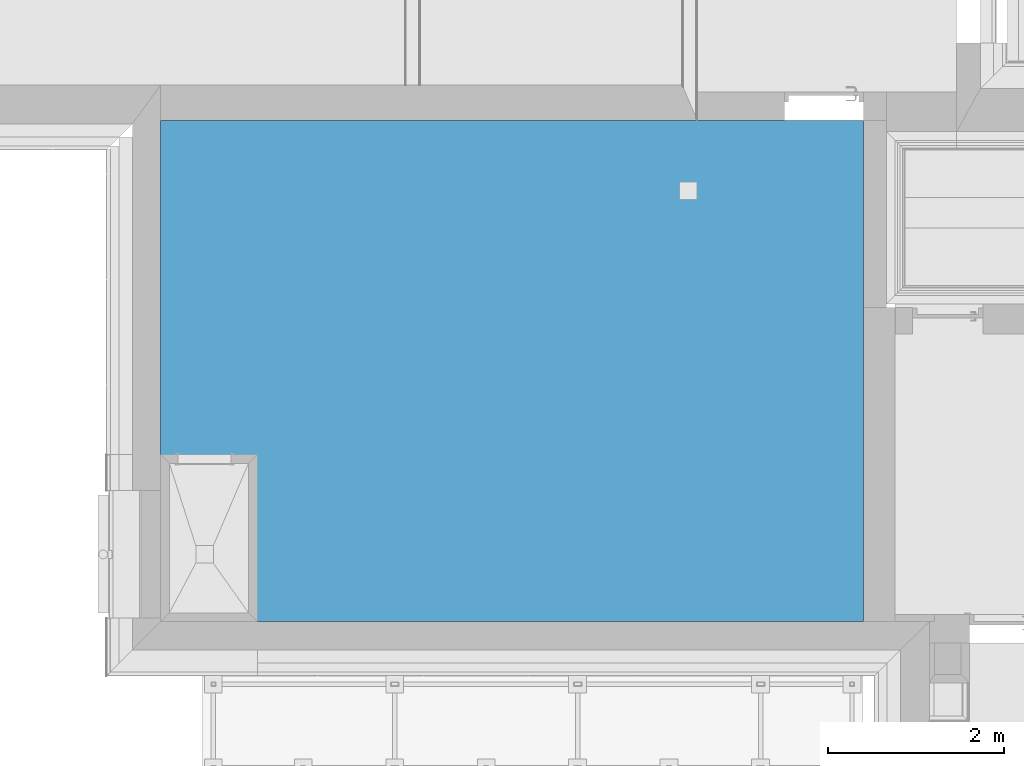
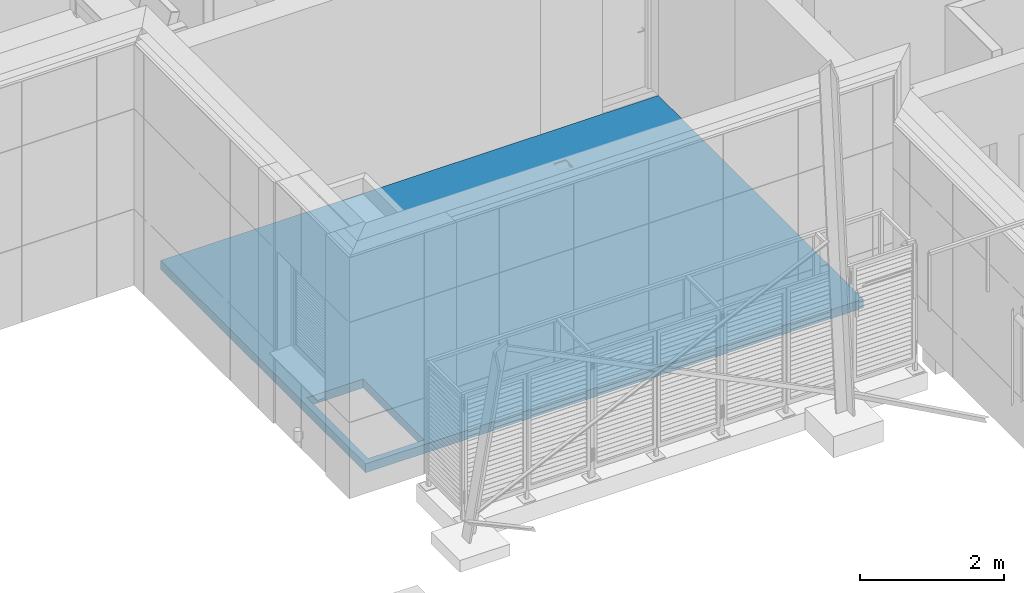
# One storey, part 116 of 418: 1 building element part, 1 opening, 1 element without a shape of its own.
"""IFC2X3 building model written with IfcOpenShell, lengths in millimetres."""

from ifc_helpers import new_model, entity, si_unit, converted_unit, derived_unit, money_unit, direction, frame, origin_with_axes, place, context, subcontext, project, spatial, polyline, outline, extrude, boolean, faceted_brep, material, type_object, element, aggregate, save


model = new_model("IFC2X3")

# Units and contexts
model_context = context("Model", 3, precision=0.01, world=origin_with_axes(), true_north=direction((0.0, 1.0)))
body_context = subcontext(model_context, "Body", "Model", "MODEL_VIEW")
ifc_project = project(units=[si_unit("LENGTHUNIT", "METRE", prefix="MILLI"), si_unit("AREAUNIT", "SQUARE_METRE"), si_unit("VOLUMEUNIT", "CUBIC_METRE"), converted_unit("PLANEANGLEUNIT", "DEGREE", entity("IfcPlaneAngleMeasure", 0.0174532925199), si_unit("PLANEANGLEUNIT", "RADIAN"), dimensions=[0, 0, 0, 0, 0, 0, 0]), si_unit("SOLIDANGLEUNIT", "STERADIAN"), money_unit("EUR"), converted_unit("TIMEUNIT", "Year", entity("IfcTimeMeasure", 31556926.0), si_unit("TIMEUNIT", "SECOND"), dimensions=[0, 0, 1, 0, 0, 0, 0]), si_unit("MASSUNIT", "GRAM", prefix="KILO"), si_unit("THERMODYNAMICTEMPERATUREUNIT", "DEGREE_CELSIUS"), si_unit("LUMINOUSINTENSITYUNIT", "LUMEN"), si_unit("ENERGYUNIT", "JOULE", prefix="MEGA"), derived_unit("THERMALCONDUCTANCEUNIT", [(si_unit("POWERUNIT", "WATT"), 1), (si_unit("LENGTHUNIT", "METRE"), -1), (si_unit("THERMODYNAMICTEMPERATUREUNIT", "KELVIN"), -1)]), derived_unit("SPECIFICHEATCAPACITYUNIT", [(si_unit("ENERGYUNIT", "JOULE"), 1), (si_unit("MASSUNIT", "GRAM", prefix="KILO"), -1), (si_unit("THERMODYNAMICTEMPERATUREUNIT", "KELVIN"), -1)]), derived_unit("MASSDENSITYUNIT", [(si_unit("MASSUNIT", "GRAM", prefix="KILO"), 1), (si_unit("VOLUMEUNIT", "CUBIC_METRE"), -1)])], contexts=[model_context])

# Site, building, storey
site_placement = place(None, origin_with_axes())
site = spatial("IfcSite", under=ifc_project, at=site_placement, Name="Paldiski mnt 245/1, Tallinn, Harjumaa", CompositionType="COMPLEX")
building_placement = place(site_placement, origin_with_axes())
building = spatial("IfcBuilding", under=site, at=building_placement, Name="RKAS Hoone üldnimetus (kasutust iseloomustav) -> IFC Project Manager -> SOLIBRI", CompositionType="ELEMENT")
storey_placement = place(building_placement, origin_with_axes())
storey = spatial("IfcBuildingStorey", under=building, at=storey_placement, Name="Esimene korrus", CompositionType="ELEMENT", Elevation=0.0)

# Slab, opening, building element part
slab_type = type_object("IfcSlabType", Name="AP-01 350", PredefinedType="NOTDEFINED")
slab_placement = place(storey_placement, frame((-56390.0, 130.000000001, 0.0), z_axis=(0.0, 0.0, 1.0), x_axis=(1.0, 0.0, 0.0)))
slab = element("IfcSlab", 1, at=slab_placement, inside=storey, type_object=slab_type, Name="AP-01", PredefinedType="NOTDEFINED")
opening_placement = place(slab_placement, frame((100.0, 1799.99992126, 0.0), z_axis=(0.0, 0.0, 1.0), x_axis=(0.0, -1.0, 0.0)))
element("IfcOpeningElement", 2, at=opening_placement, cuts=slab, Name="Slab Opening", context=body_context, shape_type="SweptSolid", body=[
    extrude(outline(polyline([(0.0, 0.0), (1699.99992126, 0.0), (1699.99992126, 900.000023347), (0.0, 900.000023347), (0.0, 0.0)])), frame((0.0, 0.0, -350.0), z_axis=(0.0, 0.0, 1.0), x_axis=(1.0, 0.0, 0.0)), (0.0, 0.0, 1.0), 350.0),
])
ifc_material = material(Name="Kiudbetoon")
building_element_part_placement = place(slab_placement, origin_with_axes())
building_element_part = element("IfcBuildingElementPart", 3, at=building_element_part_placement, material=ifc_material, Name="Kiudbetoon", context=body_context, shape_type="CSG", body=[
    boolean("DIFFERENCE", extrude(outline(polyline([(0.0, 0.0), (7990.0, -1.84741111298e-10), (7990.0, 5700.0), (1.42108547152e-10, 5700.0), (0.0, 0.0)])), frame((0.0, 0.0, -150.0), z_axis=(0.0, 0.0, 1.0), x_axis=(1.0, 0.0, 0.0)), (0.0, 0.0, 1.0), 150.0), faceted_brep([(5900.0, 4796.74087395, 0.0), (6100.0, 4796.74087395, 0.0), (6100.0, 4996.74087395, 0.0), (5900.0, 4996.74087395, 0.0), (5900.0, 4796.74087395, -15.0), (6100.0, 4796.74087395, -15.0), (6100.0, 4996.74087395, -15.0), (5900.0, 4996.74087395, -15.0), (5904.0, 4800.74087395, -15.0), (5924.5, 4800.74087395, -15.0), (5924.5, 4821.24087395, -15.0), (5924.5, 4825.24087395, -15.0), (5924.5, 4845.74087395, -15.0), (5924.5, 4849.74087395, -15.0), (5924.5, 4870.24087395, -15.0), (5924.5, 4874.24087395, -15.0), (5924.5, 4894.74087395, -15.0), (5924.5, 4898.74087395, -15.0), (5924.5, 4919.24087395, -15.0), (5924.5, 4923.24087395, -15.0), (5924.5, 4943.74087395, -15.0), (5924.5, 4947.74087395, -15.0), (5924.5, 4968.24087395, -15.0), (5924.5, 4972.24087395, -15.0), (5924.5, 4992.74087395, -15.0), (5928.5, 4992.74087395, -15.0), (5928.5, 4972.24087395, -15.0), (5928.5, 4968.24087395, -15.0), (5928.5, 4947.74087395, -15.0), (5928.5, 4943.74087395, -15.0), (5928.5, 4923.24087395, -15.0), (5928.5, 4919.24087395, -15.0), (5928.5, 4898.74087395, -15.0), (5928.5, 4894.74087395, -15.0), (5928.5, 4874.24087395, -15.0), (5928.5, 4870.24087395, -15.0), (5928.5, 4849.74087395, -15.0), (5928.5, 4845.74087395, -15.0), (5928.5, 4825.24087395, -15.0), (5928.5, 4821.24087395, -15.0), (5928.5, 4800.74087395, -15.0), (5949.0, 4800.74087395, -15.0), (5949.0, 4821.24087395, -15.0), (5949.0, 4825.24087395, -15.0), (5949.0, 4845.74087395, -15.0), (5949.0, 4849.74087395, -15.0), (5949.0, 4870.24087395, -15.0), (5949.0, 4874.24087395, -15.0), (5949.0, 4894.74087395, -15.0), (5949.0, 4898.74087395, -15.0), (5949.0, 4919.24087395, -15.0), (5949.0, 4923.24087395, -15.0), (5949.0, 4943.74087395, -15.0), (5949.0, 4947.74087395, -15.0), (5949.0, 4968.24087395, -15.0), (5949.0, 4972.24087395, -15.0), (5949.0, 4992.74087395, -15.0), (5953.0, 4992.74087395, -15.0), (5953.0, 4972.24087395, -15.0), (5953.0, 4968.24087395, -15.0), (5953.0, 4947.74087395, -15.0), (5953.0, 4943.74087395, -15.0), (5953.0, 4923.24087395, -15.0), (5953.0, 4919.24087395, -15.0), (5953.0, 4898.74087395, -15.0), (5953.0, 4894.74087395, -15.0), (5953.0, 4874.24087395, -15.0), (5953.0, 4870.24087395, -15.0), (5953.0, 4849.74087395, -15.0), (5953.0, 4845.74087395, -15.0), (5953.0, 4825.24087395, -15.0), (5953.0, 4821.24087395, -15.0), (5953.0, 4800.74087395, -15.0), (5973.5, 4800.74087395, -15.0), (5973.5, 4821.24087395, -15.0), (5973.5, 4825.24087395, -15.0), (5973.5, 4845.74087395, -15.0), (5973.5, 4849.74087395, -15.0), (5973.5, 4870.24087395, -15.0), (5973.5, 4874.24087395, -15.0), (5973.5, 4894.74087395, -15.0), (5973.5, 4898.74087395, -15.0), (5973.5, 4919.24087395, -15.0), (5973.5, 4923.24087395, -15.0), (5973.5, 4943.74087395, -15.0), (5973.5, 4947.74087395, -15.0), (5973.5, 4968.24087395, -15.0), (5973.5, 4972.24087395, -15.0), (5973.5, 4992.74087395, -15.0), (5977.5, 4992.74087395, -15.0), (5977.5, 4972.24087395, -15.0), (5977.5, 4968.24087395, -15.0), (5977.5, 4947.74087395, -15.0), (5977.5, 4943.74087395, -15.0), (5977.5, 4923.24087395, -15.0), (5977.5, 4919.24087395, -15.0), (5977.5, 4898.74087395, -15.0), (5977.5, 4894.74087395, -15.0), (5977.5, 4874.24087395, -15.0), (5977.5, 4870.24087395, -15.0), (5977.5, 4849.74087395, -15.0), (5977.5, 4845.74087395, -15.0), (5977.5, 4825.24087395, -15.0), (5977.5, 4821.24087395, -15.0), (5977.5, 4800.74087395, -15.0), (5998.0, 4800.74087395, -15.0), (5998.0, 4821.24087395, -15.0), (5998.0, 4825.24087395, -15.0), (5998.0, 4845.74087395, -15.0), (5998.0, 4849.74087395, -15.0), (5998.0, 4870.24087395, -15.0), (5998.0, 4874.24087395, -15.0), (5998.0, 4894.74087395, -15.0), (5998.0, 4898.74087395, -15.0), (5998.0, 4919.24087395, -15.0), (5998.0, 4923.24087395, -15.0), (5998.0, 4943.74087395, -15.0), (5998.0, 4947.74087395, -15.0), (5998.0, 4968.24087395, -15.0), (5998.0, 4972.24087395, -15.0), (5998.0, 4992.74087395, -15.0), (6002.0, 4992.74087395, -15.0), (6002.0, 4972.24087395, -15.0), (6002.0, 4968.24087395, -15.0), (6002.0, 4947.74087395, -15.0), (6002.0, 4943.74087395, -15.0), (6002.0, 4923.24087395, -15.0), (6002.0, 4919.24087395, -15.0), (6002.0, 4898.74087395, -15.0), (6002.0, 4894.74087395, -15.0), (6002.0, 4874.24087395, -15.0), (6002.0, 4870.24087395, -15.0), (6002.0, 4849.74087395, -15.0), (6002.0, 4845.74087395, -15.0), (6002.0, 4825.24087395, -15.0), (6002.0, 4821.24087395, -15.0), (6002.0, 4800.74087395, -15.0), (6022.5, 4800.74087395, -15.0), (6022.5, 4821.24087395, -15.0), (6022.5, 4825.24087395, -15.0), (6022.5, 4845.74087395, -15.0), (6022.5, 4849.74087395, -15.0), (6022.5, 4870.24087395, -15.0), (6022.5, 4874.24087395, -15.0), (6022.5, 4894.74087395, -15.0), (6022.5, 4898.74087395, -15.0), (6022.5, 4919.24087395, -15.0), (6022.5, 4923.24087395, -15.0), (6022.5, 4943.74087395, -15.0), (6022.5, 4947.74087395, -15.0), (6022.5, 4968.24087395, -15.0), (6022.5, 4972.24087395, -15.0), (6022.5, 4992.74087395, -15.0), (6026.5, 4992.74087395, -15.0), (6026.5, 4972.24087395, -15.0), (6026.5, 4968.24087395, -15.0), (6026.5, 4947.74087395, -15.0), (6026.5, 4943.74087395, -15.0), (6026.5, 4923.24087395, -15.0), (6026.5, 4919.24087395, -15.0), (6026.5, 4898.74087395, -15.0), (6026.5, 4894.74087395, -15.0), (6026.5, 4874.24087395, -15.0), (6026.5, 4870.24087395, -15.0), (6026.5, 4849.74087395, -15.0), (6026.5, 4845.74087395, -15.0), (6026.5, 4825.24087395, -15.0), (6026.5, 4821.24087395, -15.0), (6026.5, 4800.74087395, -15.0), (6047.0, 4800.74087395, -15.0), (6047.0, 4821.24087395, -15.0), (6047.0, 4825.24087395, -15.0), (6047.0, 4845.74087395, -15.0), (6047.0, 4849.74087395, -15.0), (6047.0, 4870.24087395, -15.0), (6047.0, 4874.24087395, -15.0), (6047.0, 4894.74087395, -15.0), (6047.0, 4898.74087395, -15.0), (6047.0, 4919.24087395, -15.0), (6047.0, 4923.24087395, -15.0), (6047.0, 4943.74087395, -15.0), (6047.0, 4947.74087395, -15.0), (6047.0, 4968.24087395, -15.0), (6047.0, 4972.24087395, -15.0), (6047.0, 4992.74087395, -15.0), (6051.0, 4992.74087395, -15.0), (6051.0, 4972.24087395, -15.0), (6051.0, 4968.24087395, -15.0), (6051.0, 4947.74087395, -15.0), (6051.0, 4943.74087395, -15.0), (6051.0, 4923.24087395, -15.0), (6051.0, 4919.24087395, -15.0), (6051.0, 4898.74087395, -15.0), (6051.0, 4894.74087395, -15.0), (6051.0, 4874.24087395, -15.0), (6051.0, 4870.24087395, -15.0), (6051.0, 4849.74087395, -15.0), (6051.0, 4845.74087395, -15.0), (6051.0, 4825.24087395, -15.0), (6051.0, 4821.24087395, -15.0), (6051.0, 4800.74087395, -15.0), (6071.5, 4800.74087395, -15.0), (6071.5, 4821.24087395, -15.0), (6071.5, 4825.24087395, -15.0), (6071.5, 4845.74087395, -15.0), (6071.5, 4849.74087395, -15.0), (6071.5, 4870.24087395, -15.0), (6071.5, 4874.24087395, -15.0), (6071.5, 4894.74087395, -15.0), (6071.5, 4898.74087395, -15.0), (6071.5, 4919.24087395, -15.0), (6071.5, 4923.24087395, -15.0), (6071.5, 4943.74087395, -15.0), (6071.5, 4947.74087395, -15.0), (6071.5, 4968.24087395, -15.0), (6071.5, 4972.24087395, -15.0), (6071.5, 4992.74087395, -15.0), (6075.5, 4992.74087395, -15.0), (6075.5, 4972.24087395, -15.0), (6075.5, 4968.24087395, -15.0), (6075.5, 4947.74087395, -15.0), (6075.5, 4943.74087395, -15.0), (6075.5, 4923.24087395, -15.0), (6075.5, 4919.24087395, -15.0), (6075.5, 4898.74087395, -15.0), (6075.5, 4894.74087395, -15.0), (6075.5, 4874.24087395, -15.0), (6075.5, 4870.24087395, -15.0), (6075.5, 4849.74087395, -15.0), (6075.5, 4845.74087395, -15.0), (6075.5, 4825.24087395, -15.0), (6075.5, 4821.24087395, -15.0), (6075.5, 4800.74087395, -15.0), (6096.0, 4800.74087395, -15.0), (6096.0, 4821.24087395, -15.0), (6096.0, 4825.24087395, -15.0), (6096.0, 4845.74087395, -15.0), (6096.0, 4849.74087395, -15.0), (6096.0, 4870.24087395, -15.0), (6096.0, 4874.24087395, -15.0), (6096.0, 4894.74087395, -15.0), (6096.0, 4898.74087395, -15.0), (6096.0, 4919.24087395, -15.0), (6096.0, 4923.24087395, -15.0), (6096.0, 4943.74087395, -15.0), (6096.0, 4947.74087395, -15.0), (6096.0, 4968.24087395, -15.0), (6096.0, 4972.24087395, -15.0), (6096.0, 4992.74087395, -15.0), (5904.0, 4992.74087395, -15.0), (5904.0, 4972.24087395, -15.0), (5904.0, 4968.24087395, -15.0), (5904.0, 4947.74087395, -15.0), (5904.0, 4943.74087395, -15.0), (5904.0, 4923.24087395, -15.0), (5904.0, 4919.24087395, -15.0), (5904.0, 4898.74087395, -15.0), (5904.0, 4894.74087395, -15.0), (5904.0, 4874.24087395, -15.0), (5904.0, 4870.24087395, -15.0), (5904.0, 4849.74087395, -15.0), (5904.0, 4845.74087395, -15.0), (5904.0, 4825.24087395, -15.0), (5904.0, 4821.24087395, -15.0), (5904.0, 4800.74087395, -13.85), (5924.5, 4800.74087395, -13.85), (5924.5, 4821.24087395, -13.85), (5924.5, 4825.24087395, -13.85), (5924.5, 4845.74087395, -13.85), (5924.5, 4849.74087395, -13.85), (5924.5, 4870.24087395, -13.85), (5924.5, 4874.24087395, -13.85), (5924.5, 4894.74087395, -13.85), (5924.5, 4898.74087395, -13.85), (5924.5, 4919.24087395, -13.85), (5924.5, 4923.24087395, -13.85), (5924.5, 4943.74087395, -13.85), (5924.5, 4947.74087395, -13.85), (5924.5, 4968.24087395, -13.85), (5924.5, 4972.24087395, -13.85), (5924.5, 4992.74087395, -13.85), (5928.5, 4992.74087395, -13.85), (5928.5, 4972.24087395, -13.85), (5928.5, 4968.24087395, -13.85), (5928.5, 4947.74087395, -13.85), (5928.5, 4943.74087395, -13.85), (5928.5, 4923.24087395, -13.85), (5928.5, 4919.24087395, -13.85), (5928.5, 4898.74087395, -13.85), (5928.5, 4894.74087395, -13.85), (5928.5, 4874.24087395, -13.85), (5928.5, 4870.24087395, -13.85), (5928.5, 4849.74087395, -13.85), (5928.5, 4845.74087395, -13.85), (5928.5, 4825.24087395, -13.85), (5928.5, 4821.24087395, -13.85), (5928.5, 4800.74087395, -13.85), (5949.0, 4800.74087395, -13.85), (5949.0, 4821.24087395, -13.85), (5949.0, 4825.24087395, -13.85), (5949.0, 4845.74087395, -13.85), (5949.0, 4849.74087395, -13.85), (5949.0, 4870.24087395, -13.85), (5949.0, 4874.24087395, -13.85), (5949.0, 4894.74087395, -13.85), (5949.0, 4898.74087395, -13.85), (5949.0, 4919.24087395, -13.85), (5949.0, 4923.24087395, -13.85), (5949.0, 4943.74087395, -13.85), (5949.0, 4947.74087395, -13.85), (5949.0, 4968.24087395, -13.85), (5949.0, 4972.24087395, -13.85), (5949.0, 4992.74087395, -13.85), (5953.0, 4992.74087395, -13.85), (5953.0, 4972.24087395, -13.85), (5953.0, 4968.24087395, -13.85), (5953.0, 4947.74087395, -13.85), (5953.0, 4943.74087395, -13.85), (5953.0, 4923.24087395, -13.85), (5953.0, 4919.24087395, -13.85), (5953.0, 4898.74087395, -13.85), (5953.0, 4894.74087395, -13.85), (5953.0, 4874.24087395, -13.85), (5953.0, 4870.24087395, -13.85), (5953.0, 4849.74087395, -13.85), (5953.0, 4845.74087395, -13.85), (5953.0, 4825.24087395, -13.85), (5953.0, 4821.24087395, -13.85), (5953.0, 4800.74087395, -13.85), (5973.5, 4800.74087395, -13.85), (5973.5, 4821.24087395, -13.85), (5973.5, 4825.24087395, -13.85), (5973.5, 4845.74087395, -13.85), (5973.5, 4849.74087395, -13.85), (5973.5, 4870.24087395, -13.85), (5973.5, 4874.24087395, -13.85), (5973.5, 4894.74087395, -13.85), (5973.5, 4898.74087395, -13.85), (5973.5, 4919.24087395, -13.85), (5973.5, 4923.24087395, -13.85), (5973.5, 4943.74087395, -13.85), (5973.5, 4947.74087395, -13.85), (5973.5, 4968.24087395, -13.85), (5973.5, 4972.24087395, -13.85), (5973.5, 4992.74087395, -13.85), (5977.5, 4992.74087395, -13.85), (5977.5, 4972.24087395, -13.85), (5977.5, 4968.24087395, -13.85), (5977.5, 4947.74087395, -13.85), (5977.5, 4943.74087395, -13.85), (5977.5, 4923.24087395, -13.85), (5977.5, 4919.24087395, -13.85), (5977.5, 4898.74087395, -13.85), (5977.5, 4894.74087395, -13.85), (5977.5, 4874.24087395, -13.85), (5977.5, 4870.24087395, -13.85), (5977.5, 4849.74087395, -13.85), (5977.5, 4845.74087395, -13.85), (5977.5, 4825.24087395, -13.85), (5977.5, 4821.24087395, -13.85), (5977.5, 4800.74087395, -13.85), (5998.0, 4800.74087395, -13.85), (5998.0, 4821.24087395, -13.85), (5998.0, 4825.24087395, -13.85), (5998.0, 4845.74087395, -13.85), (5998.0, 4849.74087395, -13.85), (5998.0, 4870.24087395, -13.85), (5998.0, 4874.24087395, -13.85), (5998.0, 4894.74087395, -13.85), (5998.0, 4898.74087395, -13.85), (5998.0, 4919.24087395, -13.85), (5998.0, 4923.24087395, -13.85), (5998.0, 4943.74087395, -13.85), (5998.0, 4947.74087395, -13.85), (5998.0, 4968.24087395, -13.85), (5998.0, 4972.24087395, -13.85), (5998.0, 4992.74087395, -13.85), (6002.0, 4992.74087395, -13.85), (6002.0, 4972.24087395, -13.85), (6002.0, 4968.24087395, -13.85), (6002.0, 4947.74087395, -13.85), (6002.0, 4943.74087395, -13.85), (6002.0, 4923.24087395, -13.85), (6002.0, 4919.24087395, -13.85), (6002.0, 4898.74087395, -13.85), (6002.0, 4894.74087395, -13.85), (6002.0, 4874.24087395, -13.85), (6002.0, 4870.24087395, -13.85), (6002.0, 4849.74087395, -13.85), (6002.0, 4845.74087395, -13.85), (6002.0, 4825.24087395, -13.85), (6002.0, 4821.24087395, -13.85), (6002.0, 4800.74087395, -13.85), (6022.5, 4800.74087395, -13.85), (6022.5, 4821.24087395, -13.85), (6022.5, 4825.24087395, -13.85), (6022.5, 4845.74087395, -13.85), (6022.5, 4849.74087395, -13.85), (6022.5, 4870.24087395, -13.85), (6022.5, 4874.24087395, -13.85), (6022.5, 4894.74087395, -13.85), (6022.5, 4898.74087395, -13.85), (6022.5, 4919.24087395, -13.85), (6022.5, 4923.24087395, -13.85), (6022.5, 4943.74087395, -13.85), (6022.5, 4947.74087395, -13.85), (6022.5, 4968.24087395, -13.85), (6022.5, 4972.24087395, -13.85), (6022.5, 4992.74087395, -13.85), (6026.5, 4992.74087395, -13.85), (6026.5, 4972.24087395, -13.85), (6026.5, 4968.24087395, -13.85), (6026.5, 4947.74087395, -13.85), (6026.5, 4943.74087395, -13.85), (6026.5, 4923.24087395, -13.85), (6026.5, 4919.24087395, -13.85), (6026.5, 4898.74087395, -13.85), (6026.5, 4894.74087395, -13.85), (6026.5, 4874.24087395, -13.85), (6026.5, 4870.24087395, -13.85), (6026.5, 4849.74087395, -13.85), (6026.5, 4845.74087395, -13.85), (6026.5, 4825.24087395, -13.85), (6026.5, 4821.24087395, -13.85), (6026.5, 4800.74087395, -13.85), (6047.0, 4800.74087395, -13.85), (6047.0, 4821.24087395, -13.85), (6047.0, 4825.24087395, -13.85), (6047.0, 4845.74087395, -13.85), (6047.0, 4849.74087395, -13.85), (6047.0, 4870.24087395, -13.85), (6047.0, 4874.24087395, -13.85), (6047.0, 4894.74087395, -13.85), (6047.0, 4898.74087395, -13.85), (6047.0, 4919.24087395, -13.85), (6047.0, 4923.24087395, -13.85), (6047.0, 4943.74087395, -13.85), (6047.0, 4947.74087395, -13.85), (6047.0, 4968.24087395, -13.85), (6047.0, 4972.24087395, -13.85), (6047.0, 4992.74087395, -13.85), (6051.0, 4992.74087395, -13.85), (6051.0, 4972.24087395, -13.85), (6051.0, 4968.24087395, -13.85), (6051.0, 4947.74087395, -13.85), (6051.0, 4943.74087395, -13.85), (6051.0, 4923.24087395, -13.85), (6051.0, 4919.24087395, -13.85), (6051.0, 4898.74087395, -13.85), (6051.0, 4894.74087395, -13.85), (6051.0, 4874.24087395, -13.85), (6051.0, 4870.24087395, -13.85), (6051.0, 4849.74087395, -13.85), (6051.0, 4845.74087395, -13.85), (6051.0, 4825.24087395, -13.85), (6051.0, 4821.24087395, -13.85), (6051.0, 4800.74087395, -13.85), (6071.5, 4800.74087395, -13.85), (6071.5, 4821.24087395, -13.85), (6071.5, 4825.24087395, -13.85), (6071.5, 4845.74087395, -13.85), (6071.5, 4849.74087395, -13.85), (6071.5, 4870.24087395, -13.85), (6071.5, 4874.24087395, -13.85), (6071.5, 4894.74087395, -13.85), (6071.5, 4898.74087395, -13.85), (6071.5, 4919.24087395, -13.85), (6071.5, 4923.24087395, -13.85), (6071.5, 4943.74087395, -13.85), (6071.5, 4947.74087395, -13.85), (6071.5, 4968.24087395, -13.85), (6071.5, 4972.24087395, -13.85), (6071.5, 4992.74087395, -13.85), (6075.5, 4992.74087395, -13.85), (6075.5, 4972.24087395, -13.85), (6075.5, 4968.24087395, -13.85), (6075.5, 4947.74087395, -13.85), (6075.5, 4943.74087395, -13.85), (6075.5, 4923.24087395, -13.85), (6075.5, 4919.24087395, -13.85), (6075.5, 4898.74087395, -13.85), (6075.5, 4894.74087395, -13.85), (6075.5, 4874.24087395, -13.85), (6075.5, 4870.24087395, -13.85), (6075.5, 4849.74087395, -13.85), (6075.5, 4845.74087395, -13.85), (6075.5, 4825.24087395, -13.85), (6075.5, 4821.24087395, -13.85), (6075.5, 4800.74087395, -13.85), (6096.0, 4800.74087395, -13.85), (6096.0, 4821.24087395, -13.85), (6096.0, 4825.24087395, -13.85), (6096.0, 4845.74087395, -13.85), (6096.0, 4849.74087395, -13.85), (6096.0, 4870.24087395, -13.85), (6096.0, 4874.24087395, -13.85), (6096.0, 4894.74087395, -13.85), (6096.0, 4898.74087395, -13.85), (6096.0, 4919.24087395, -13.85), (6096.0, 4923.24087395, -13.85), (6096.0, 4943.74087395, -13.85), (6096.0, 4947.74087395, -13.85), (6096.0, 4968.24087395, -13.85), (6096.0, 4972.24087395, -13.85), (6096.0, 4992.74087395, -13.85), (5904.0, 4992.74087395, -13.85), (5904.0, 4972.24087395, -13.85), (5904.0, 4968.24087395, -13.85), (5904.0, 4947.74087395, -13.85), (5904.0, 4943.74087395, -13.85), (5904.0, 4923.24087395, -13.85), (5904.0, 4919.24087395, -13.85), (5904.0, 4898.74087395, -13.85), (5904.0, 4894.74087395, -13.85), (5904.0, 4874.24087395, -13.85), (5904.0, 4870.24087395, -13.85), (5904.0, 4849.74087395, -13.85), (5904.0, 4845.74087395, -13.85), (5904.0, 4825.24087395, -13.85), (5904.0, 4821.24087395, -13.85)], [[[0, 1, 2, 3]], [[1, 0, 4, 5]], [[2, 1, 5, 6]], [[3, 2, 6, 7]], [[0, 3, 7, 4]], [[4, 8, 9, 10, 11, 12, 13, 14, 15, 16, 17, 18, 19, 20, 21, 22, 23, 24, 25, 26, 27, 28, 29, 30, 31, 32, 33, 34, 35, 36, 37, 38, 39, 40, 41, 42, 43, 44, 45, 46, 47, 48, 49, 50, 51, 52, 53, 54, 55, 56, 57, 58, 59, 60, 61, 62, 63, 64, 65, 66, 67, 68, 69, 70, 71, 72, 73, 74, 75, 76, 77, 78, 79, 80, 81, 82, 83, 84, 85, 86, 87, 88, 89, 90, 91, 92, 93, 94, 95, 96, 97, 98, 99, 100, 101, 102, 103, 104, 105, 106, 107, 108, 109, 110, 111, 112, 113, 114, 115, 116, 117, 118, 119, 120, 121, 122, 123, 124, 125, 126, 127, 128, 129, 130, 131, 132, 133, 134, 135, 136, 137, 138, 139, 140, 141, 142, 143, 144, 145, 146, 147, 148, 149, 150, 151, 152, 153, 154, 155, 156, 157, 158, 159, 160, 161, 162, 163, 164, 165, 166, 167, 168, 169, 170, 171, 172, 173, 174, 175, 176, 177, 178, 179, 180, 181, 182, 183, 184, 185, 186, 187, 188, 189, 190, 191, 192, 193, 194, 195, 196, 197, 198, 199, 200, 201, 202, 203, 204, 205, 206, 207, 208, 209, 210, 211, 212, 213, 214, 215, 216, 217, 218, 219, 220, 221, 222, 223, 224, 225, 226, 227, 228, 229, 230, 231, 232, 233, 5]], [[8, 4, 7, 6, 5, 233, 234, 235, 236, 237, 238, 239, 240, 241, 242, 243, 244, 245, 246, 247, 248, 217, 216, 185, 184, 153, 152, 121, 120, 89, 88, 57, 56, 25, 24, 249, 250, 251, 252, 253, 254, 255, 256, 257, 258, 259, 260, 261, 262, 263]], [[264, 265, 9, 8]], [[10, 9, 265, 266]], [[262, 11, 10, 263]], [[12, 11, 267, 268]], [[260, 13, 12, 261]], [[14, 13, 269, 270]], [[258, 15, 14, 259]], [[16, 15, 271, 272]], [[256, 17, 16, 257]], [[18, 17, 273, 274]], [[255, 254, 19, 18]], [[20, 19, 275, 276]], [[21, 20, 253, 252]], [[22, 21, 277, 278]], [[23, 22, 251, 250]], [[279, 280, 24, 23]], [[26, 25, 281, 282]], [[55, 54, 27, 26]], [[28, 27, 283, 284]], [[53, 52, 29, 28]], [[30, 29, 285, 286]], [[51, 50, 31, 30]], [[32, 31, 287, 288]], [[49, 48, 33, 32]], [[34, 33, 289, 290]], [[34, 47, 46, 35]], [[36, 35, 291, 292]], [[36, 45, 44, 37]], [[38, 37, 293, 294]], [[38, 43, 42, 39]], [[40, 39, 295, 296]], [[296, 297, 41, 40]], [[42, 41, 297, 298]], [[44, 43, 299, 300]], [[46, 45, 301, 302]], [[48, 47, 303, 304]], [[50, 49, 305, 306]], [[52, 51, 307, 308]], [[54, 53, 309, 310]], [[311, 312, 56, 55]], [[58, 57, 313, 314]], [[58, 87, 86, 59]], [[60, 59, 315, 316]], [[85, 84, 61, 60]], [[62, 61, 317, 318]], [[62, 83, 82, 63]], [[64, 63, 319, 320]], [[65, 64, 81, 80]], [[66, 65, 321, 322]], [[79, 78, 67, 66]], [[68, 67, 323, 324]], [[68, 77, 76, 69]], [[70, 69, 325, 326]], [[75, 74, 71, 70]], [[72, 71, 327, 328]], [[328, 329, 73, 72]], [[74, 73, 329, 330]], [[76, 75, 331, 332]], [[78, 77, 333, 334]], [[80, 79, 335, 336]], [[82, 81, 337, 338]], [[84, 83, 339, 340]], [[86, 85, 341, 342]], [[343, 344, 88, 87]], [[345, 346, 90, 89]], [[119, 118, 91, 90]], [[92, 91, 347, 348]], [[92, 117, 116, 93]], [[94, 93, 349, 350]], [[94, 115, 114, 95]], [[96, 95, 351, 352]], [[97, 96, 113, 112]], [[98, 97, 353, 354]], [[111, 110, 99, 98]], [[100, 99, 355, 356]], [[109, 108, 101, 100]], [[102, 101, 357, 358]], [[107, 106, 103, 102]], [[104, 103, 359, 360]], [[360, 361, 105, 104]], [[106, 105, 361, 362]], [[108, 107, 363, 364]], [[110, 109, 365, 366]], [[112, 111, 367, 368]], [[114, 113, 369, 370]], [[116, 115, 371, 372]], [[118, 117, 373, 374]], [[120, 119, 375, 376]], [[122, 121, 377, 378]], [[122, 151, 150, 123]], [[124, 123, 379, 380]], [[124, 149, 148, 125]], [[126, 125, 381, 382]], [[126, 147, 146, 127]], [[128, 127, 383, 384]], [[128, 145, 144, 129]], [[130, 129, 385, 386]], [[143, 142, 131, 130]], [[132, 131, 387, 388]], [[141, 140, 133, 132]], [[134, 133, 389, 390]], [[134, 139, 138, 135]], [[136, 135, 391, 392]], [[392, 393, 137, 136]], [[138, 137, 393, 394]], [[140, 139, 395, 396]], [[142, 141, 397, 398]], [[144, 143, 399, 400]], [[146, 145, 401, 402]], [[148, 147, 403, 404]], [[150, 149, 405, 406]], [[407, 408, 152, 151]], [[154, 153, 409, 410]], [[183, 182, 155, 154]], [[156, 155, 411, 412]], [[181, 180, 157, 156]], [[158, 157, 413, 414]], [[179, 178, 159, 158]], [[160, 159, 415, 416]], [[177, 176, 161, 160]], [[162, 161, 417, 418]], [[175, 174, 163, 162]], [[164, 163, 419, 420]], [[164, 173, 172, 165]], [[166, 165, 421, 422]], [[171, 170, 167, 166]], [[168, 167, 423, 424]], [[424, 425, 169, 168]], [[170, 169, 425, 426]], [[172, 171, 427, 428]], [[174, 173, 429, 430]], [[176, 175, 431, 432]], [[178, 177, 433, 434]], [[180, 179, 435, 436]], [[182, 181, 437, 438]], [[439, 440, 184, 183]], [[186, 185, 441, 442]], [[215, 214, 187, 186]], [[188, 187, 443, 444]], [[189, 188, 213, 212]], [[190, 189, 445, 446]], [[191, 190, 211, 210]], [[192, 191, 447, 448]], [[193, 192, 209, 208]], [[194, 193, 449, 450]], [[207, 206, 195, 194]], [[196, 195, 451, 452]], [[205, 204, 197, 196]], [[198, 197, 453, 454]], [[203, 202, 199, 198]], [[200, 199, 455, 456]], [[456, 457, 201, 200]], [[202, 201, 457, 458]], [[204, 203, 459, 460]], [[206, 205, 461, 462]], [[208, 207, 463, 464]], [[210, 209, 465, 466]], [[212, 211, 467, 468]], [[214, 213, 469, 470]], [[471, 472, 216, 215]], [[473, 474, 218, 217]], [[218, 247, 246, 219]], [[220, 219, 475, 476]], [[221, 220, 245, 244]], [[222, 221, 477, 478]], [[243, 242, 223, 222]], [[224, 223, 479, 480]], [[225, 224, 241, 240]], [[226, 225, 481, 482]], [[227, 226, 239, 238]], [[228, 227, 483, 484]], [[229, 228, 237, 236]], [[230, 229, 485, 486]], [[235, 234, 231, 230]], [[232, 231, 487, 488]], [[488, 489, 233, 232]], [[234, 233, 489, 490]], [[236, 235, 491, 492]], [[238, 237, 493, 494]], [[240, 239, 495, 496]], [[242, 241, 497, 498]], [[244, 243, 499, 500]], [[246, 245, 501, 502]], [[248, 247, 503, 504]], [[217, 248, 504, 473]], [[185, 216, 472, 441]], [[153, 184, 440, 409]], [[121, 152, 408, 377]], [[89, 120, 376, 345]], [[57, 88, 344, 313]], [[25, 56, 312, 281]], [[249, 24, 280, 505]], [[250, 249, 505, 506]], [[252, 251, 507, 508]], [[254, 253, 509, 510]], [[256, 255, 511, 512]], [[258, 257, 513, 514]], [[260, 259, 515, 516]], [[262, 261, 517, 518]], [[8, 263, 519, 264]], [[264, 519, 266, 265]], [[263, 10, 266, 519]], [[518, 267, 11, 262]], [[518, 517, 268, 267]], [[261, 12, 268, 517]], [[516, 269, 13, 260]], [[516, 515, 270, 269]], [[259, 14, 270, 515]], [[514, 271, 15, 258]], [[514, 513, 272, 271]], [[257, 16, 272, 513]], [[512, 273, 17, 256]], [[512, 511, 274, 273]], [[255, 18, 274, 511]], [[510, 275, 19, 254]], [[510, 509, 276, 275]], [[253, 20, 276, 509]], [[508, 277, 21, 252]], [[507, 278, 277, 508]], [[251, 22, 278, 507]], [[506, 279, 23, 250]], [[506, 505, 280, 279]], [[282, 281, 312, 311]], [[282, 311, 55, 26]], [[27, 54, 310, 283]], [[283, 310, 309, 284]], [[284, 309, 53, 28]], [[29, 52, 308, 285]], [[285, 308, 307, 286]], [[286, 307, 51, 30]], [[31, 50, 306, 287]], [[306, 305, 288, 287]], [[288, 305, 49, 32]], [[33, 48, 304, 289]], [[289, 304, 303, 290]], [[290, 303, 47, 34]], [[35, 46, 302, 291]], [[292, 291, 302, 301]], [[292, 301, 45, 36]], [[37, 44, 300, 293]], [[300, 299, 294, 293]], [[294, 299, 43, 38]], [[39, 42, 298, 295]], [[295, 298, 297, 296]], [[314, 313, 344, 343]], [[314, 343, 87, 58]], [[59, 86, 342, 315]], [[315, 342, 341, 316]], [[316, 341, 85, 60]], [[61, 84, 340, 317]], [[340, 339, 318, 317]], [[318, 339, 83, 62]], [[63, 82, 338, 319]], [[338, 337, 320, 319]], [[320, 337, 81, 64]], [[65, 80, 336, 321]], [[321, 336, 335, 322]], [[322, 335, 79, 66]], [[67, 78, 334, 323]], [[334, 333, 324, 323]], [[324, 333, 77, 68]], [[69, 76, 332, 325]], [[326, 325, 332, 331]], [[326, 331, 75, 70]], [[71, 74, 330, 327]], [[328, 327, 330, 329]], [[376, 375, 346, 345]], [[346, 375, 119, 90]], [[91, 118, 374, 347]], [[347, 374, 373, 348]], [[348, 373, 117, 92]], [[93, 116, 372, 349]], [[350, 349, 372, 371]], [[350, 371, 115, 94]], [[95, 114, 370, 351]], [[352, 351, 370, 369]], [[352, 369, 113, 96]], [[97, 112, 368, 353]], [[368, 367, 354, 353]], [[354, 367, 111, 98]], [[99, 110, 366, 355]], [[366, 365, 356, 355]], [[356, 365, 109, 100]], [[101, 108, 364, 357]], [[357, 364, 363, 358]], [[358, 363, 107, 102]], [[103, 106, 362, 359]], [[359, 362, 361, 360]], [[378, 377, 408, 407]], [[378, 407, 151, 122]], [[123, 150, 406, 379]], [[379, 406, 405, 380]], [[380, 405, 149, 124]], [[125, 148, 404, 381]], [[404, 403, 382, 381]], [[382, 403, 147, 126]], [[127, 146, 402, 383]], [[402, 401, 384, 383]], [[384, 401, 145, 128]], [[129, 144, 400, 385]], [[400, 399, 386, 385]], [[386, 399, 143, 130]], [[131, 142, 398, 387]], [[398, 397, 388, 387]], [[388, 397, 141, 132]], [[133, 140, 396, 389]], [[390, 389, 396, 395]], [[390, 395, 139, 134]], [[135, 138, 394, 391]], [[392, 391, 394, 393]], [[410, 409, 440, 439]], [[410, 439, 183, 154]], [[155, 182, 438, 411]], [[412, 411, 438, 437]], [[412, 437, 181, 156]], [[157, 180, 436, 413]], [[414, 413, 436, 435]], [[414, 435, 179, 158]], [[159, 178, 434, 415]], [[416, 415, 434, 433]], [[416, 433, 177, 160]], [[161, 176, 432, 417]], [[417, 432, 431, 418]], [[418, 431, 175, 162]], [[163, 174, 430, 419]], [[420, 419, 430, 429]], [[420, 429, 173, 164]], [[165, 172, 428, 421]], [[422, 421, 428, 427]], [[422, 427, 171, 166]], [[167, 170, 426, 423]], [[423, 426, 425, 424]], [[442, 441, 472, 471]], [[442, 471, 215, 186]], [[187, 214, 470, 443]], [[470, 469, 444, 443]], [[444, 469, 213, 188]], [[189, 212, 468, 445]], [[468, 467, 446, 445]], [[446, 467, 211, 190]], [[191, 210, 466, 447]], [[466, 465, 448, 447]], [[448, 465, 209, 192]], [[193, 208, 464, 449]], [[449, 464, 463, 450]], [[450, 463, 207, 194]], [[195, 206, 462, 451]], [[462, 461, 452, 451]], [[452, 461, 205, 196]], [[197, 204, 460, 453]], [[460, 459, 454, 453]], [[454, 459, 203, 198]], [[199, 202, 458, 455]], [[455, 458, 457, 456]], [[473, 504, 503, 474]], [[474, 503, 247, 218]], [[219, 246, 502, 475]], [[502, 501, 476, 475]], [[476, 501, 245, 220]], [[221, 244, 500, 477]], [[500, 499, 478, 477]], [[478, 499, 243, 222]], [[223, 242, 498, 479]], [[498, 497, 480, 479]], [[480, 497, 241, 224]], [[225, 240, 496, 481]], [[496, 495, 482, 481]], [[482, 495, 239, 226]], [[227, 238, 494, 483]], [[484, 483, 494, 493]], [[484, 493, 237, 228]], [[229, 236, 492, 485]], [[492, 491, 486, 485]], [[486, 491, 235, 230]], [[231, 234, 490, 487]], [[487, 490, 489, 488]]])),
])
aggregate(slab, [building_element_part])

save(model, "model.ifc")
